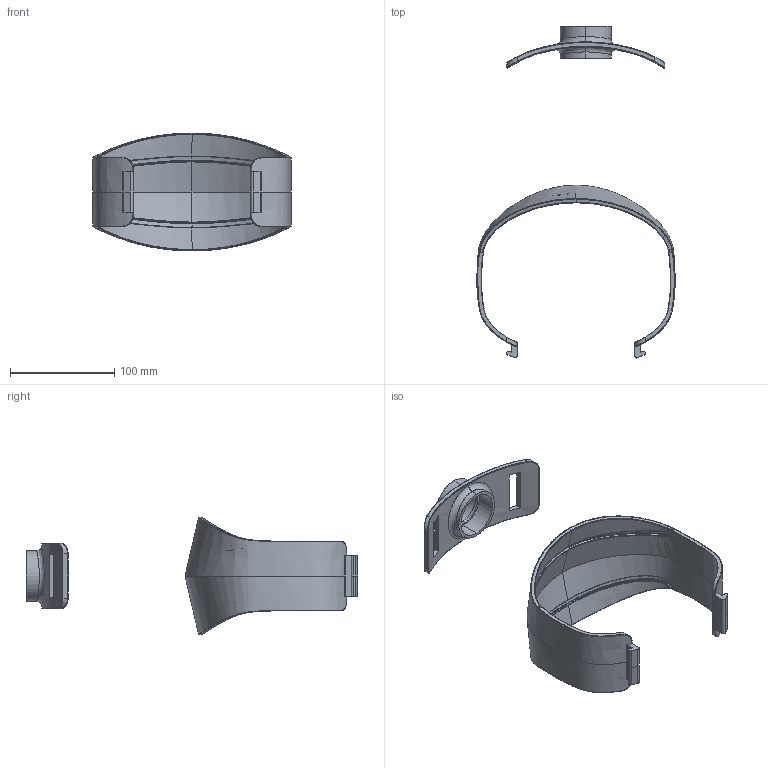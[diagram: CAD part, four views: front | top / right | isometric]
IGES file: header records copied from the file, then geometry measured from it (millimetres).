
Start section: SolidWorks IGES file using analytic representation for surfaces
Global section: file name: C:\Users\Eddie\Dropbox\Studio Brignetti Longoni\1. Progetti in corso\32. Eumakers\32.7 Definitivi\32.7.1 Consegna\02. Applique\Applique.IGS; native system: SolidWorks 2016; preprocessor: SolidWorks 2016; author: Eddie; date: 160725.131911; units: millimetre
Bounding box: 189.99 x 317.98 x 112.89 mm (x, y, z)
Surface area: 106446.3 mm2 (no closed solid volume)
Topology: 0 solids, 0 shells, 175 faces, 3118 edges, 3098 vertices
Faces by surface type: bspline 156, revolution 19
